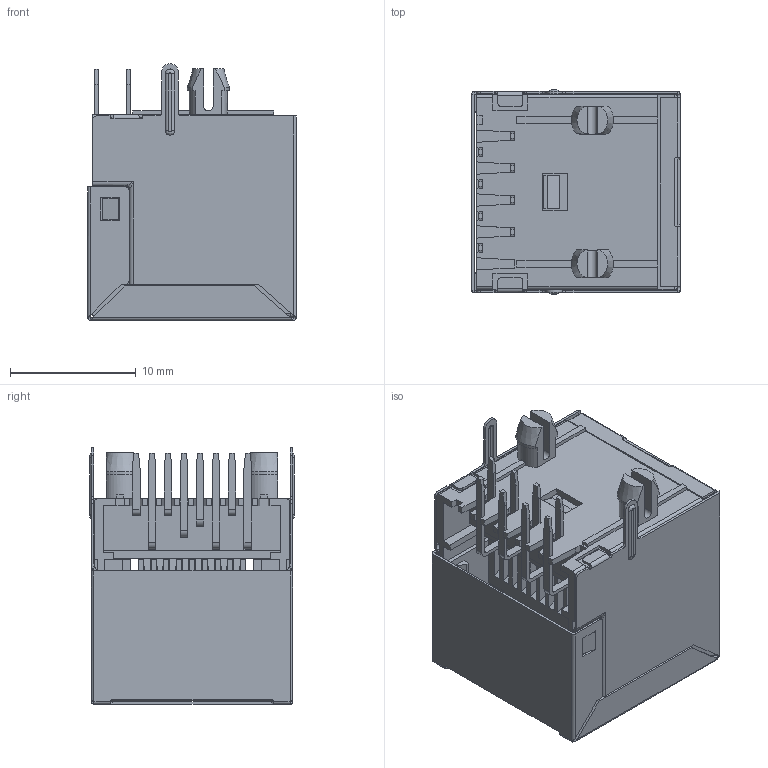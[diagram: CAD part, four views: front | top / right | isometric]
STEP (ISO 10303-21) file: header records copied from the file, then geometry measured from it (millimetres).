
FILE_DESCRIPTION((''),'2;1');
FILE_NAME('DGKYD52FCT1118GWA1DB1006','2023-04-03T13:36:10',('Administrator'),(''),'CREO PARAMETRIC BY PTC INC, 2019010','CREO PARAMETRIC BY PTC INC, 2019010','');
FILE_SCHEMA(('CONFIG_CONTROL_DESIGN'));
Length unit declared in the file: millimetre
Products named in the file (1): DGKYD52FCT1118GWA1DB1006
Bounding box: 16.6 x 16.3 x 20.4 mm (x, y, z)
Volume: 1898.3 mm3; surface area: 5396.1 mm2
Topology: 1 solids, 2 shells, 873 faces, 2430 edges, 1550 vertices
Faces by surface type: plane 673, cylinder 164, bspline 30, cone 4, sphere 2
Entity records: 28719 total; most frequent: CARTESIAN_POINT 6285, ORIENTED_EDGE 4848, DIRECTION 4396, EDGE_CURVE 2428, VECTOR 2000, LINE 2000, VERTEX_POINT 1550, AXIS2_PLACEMENT_3D 1198
